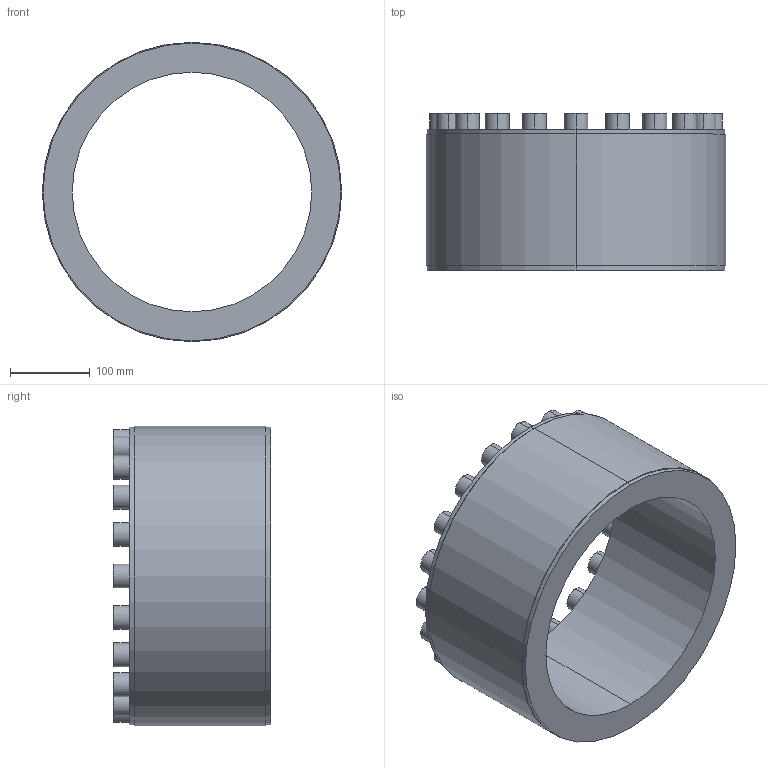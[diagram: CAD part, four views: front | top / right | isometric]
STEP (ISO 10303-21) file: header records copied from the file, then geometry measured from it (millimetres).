
FILE_DESCRIPTION (( 'STEP AP203' ), '1' );
FILE_NAME ('PL-D1 300-375.STEP', '2021-10-23T00:25:05', ( '' ), ( '' ), 'SwSTEP 2.0', 'SolidWorks 2018', '' );
FILE_SCHEMA (( 'CONFIG_CONTROL_DESIGN' ));
Length unit declared in the file: millimetre
Products named in the file (1): PL-D1 300-375
Bounding box: 375 x 197 x 375 mm (x, y, z)
Volume: 7256145.6 mm3; surface area: 503858.3 mm2
Topology: 1 solids, 1 shells, 252 faces, 584 edges, 376 vertices
Faces by surface type: plane 164, cylinder 48, torus 40
Entity records: 7205 total; most frequent: DIRECTION 1266, CARTESIAN_POINT 1213, ORIENTED_EDGE 1168, EDGE_CURVE 584, AXIS2_PLACEMENT_3D 429, LINE 408, VECTOR 408, VERTEX_POINT 376
